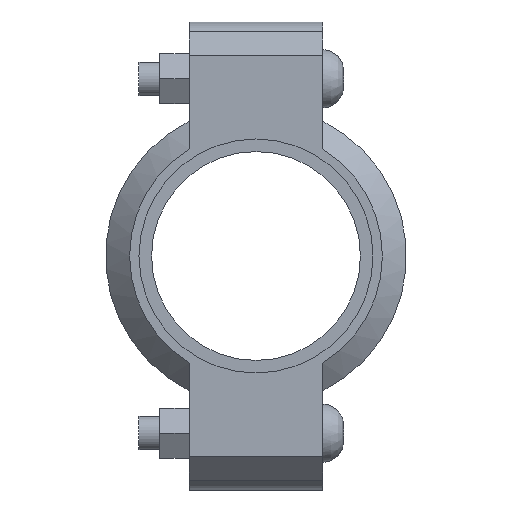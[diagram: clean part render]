
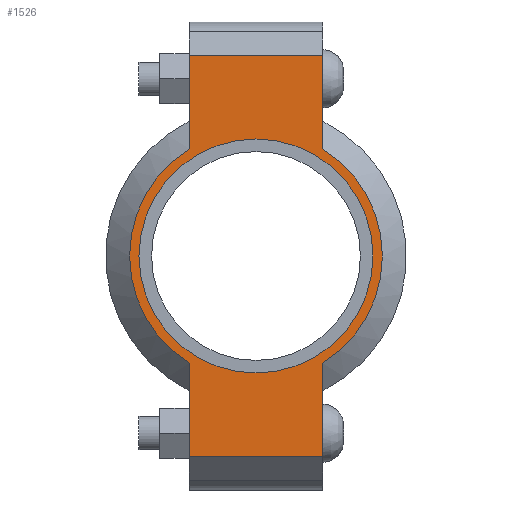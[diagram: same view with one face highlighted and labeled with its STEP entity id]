
A CAD part, left-side view. The second image highlights one B-rep face of the part: STEP entity #1526.
In plain terms, the highlighted planar face has unit normal (-1, 0, 0) as drawn and (0, 0, 1) by its records, which use the part's own axes.
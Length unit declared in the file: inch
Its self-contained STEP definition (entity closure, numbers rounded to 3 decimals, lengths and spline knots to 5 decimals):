
#150=LINE('',#2663,#243);
#158=LINE('',#2699,#251);
#165=LINE('',#2720,#258);
#174=LINE('',#2752,#267);
#175=LINE('',#2756,#268);
#176=LINE('',#2758,#269);
#243=VECTOR('',#2175,0.3937);
#251=VECTOR('',#2191,0.3937);
#258=VECTOR('',#2210,0.3937);
#267=VECTOR('',#2235,0.3937);
#268=VECTOR('',#2240,0.3937);
#269=VECTOR('',#2241,0.3937);
#325=FACE_BOUND('',#503,.T.);
#397=FACE_OUTER_BOUND('',#502,.T.);
#502=EDGE_LOOP('',(#1267,#1268,#1269,#1270,#1271,#1272,#1273,#1274));
#503=EDGE_LOOP('',(#1275));
#575=CIRCLE('',#1745,1.75);
#601=CIRCLE('',#1804,1.89);
#602=CIRCLE('',#1805,1.89);
#667=VERTEX_POINT('',#2479);
#710=VERTEX_POINT('',#2660);
#711=VERTEX_POINT('',#2662);
#722=VERTEX_POINT('',#2694);
#723=VERTEX_POINT('',#2698);
#730=VERTEX_POINT('',#2717);
#731=VERTEX_POINT('',#2719);
#741=VERTEX_POINT('',#2755);
#742=VERTEX_POINT('',#2757);
#823=EDGE_CURVE('',#667,#667,#575,.T.);
#884=EDGE_CURVE('',#711,#710,#150,.T.);
#898=EDGE_CURVE('',#723,#722,#158,.T.);
#908=EDGE_CURVE('',#731,#730,#165,.T.);
#923=EDGE_CURVE('',#723,#710,#174,.T.);
#924=EDGE_CURVE('',#722,#731,#601,.T.);
#925=EDGE_CURVE('',#741,#730,#175,.T.);
#926=EDGE_CURVE('',#741,#742,#176,.T.);
#927=EDGE_CURVE('',#742,#711,#602,.T.);
#1267=ORIENTED_EDGE('',*,*,#923,.F.);
#1268=ORIENTED_EDGE('',*,*,#898,.T.);
#1269=ORIENTED_EDGE('',*,*,#924,.T.);
#1270=ORIENTED_EDGE('',*,*,#908,.T.);
#1271=ORIENTED_EDGE('',*,*,#925,.F.);
#1272=ORIENTED_EDGE('',*,*,#926,.T.);
#1273=ORIENTED_EDGE('',*,*,#927,.T.);
#1274=ORIENTED_EDGE('',*,*,#884,.T.);
#1275=ORIENTED_EDGE('',*,*,#823,.T.);
#1368=PLANE('',#1803);
#1526=ADVANCED_FACE('',(#397,#325),#1368,.T.);
#1745=AXIS2_PLACEMENT_3D('',#2481,#2051,#2052);
#1803=AXIS2_PLACEMENT_3D('',#2753,#2236,#2237);
#1804=AXIS2_PLACEMENT_3D('',#2754,#2238,#2239);
#1805=AXIS2_PLACEMENT_3D('',#2759,#2242,#2243);
#2051=DIRECTION('center_axis',(0.,0.,-1.));
#2052=DIRECTION('ref_axis',(-1.,0.,0.));
#2175=DIRECTION('',(-1.,0.,0.));
#2191=DIRECTION('',(1.,0.,0.));
#2210=DIRECTION('',(1.,0.,0.));
#2235=DIRECTION('',(0.,1.,0.));
#2236=DIRECTION('center_axis',(0.,0.,1.));
#2237=DIRECTION('ref_axis',(1.,0.,0.));
#2238=DIRECTION('center_axis',(0.,0.,1.));
#2239=DIRECTION('ref_axis',(-1.,0.,0.));
#2240=DIRECTION('',(0.,-1.,0.));
#2241=DIRECTION('',(-1.,0.,0.));
#2242=DIRECTION('center_axis',(0.,0.,1.));
#2243=DIRECTION('ref_axis',(-1.,0.,0.));
#2479=CARTESIAN_POINT('',(1.75,0.,0.94));
#2481=CARTESIAN_POINT('Origin',(0.,0.,0.94));
#2660=CARTESIAN_POINT('',(-3.,1.,0.94));
#2662=CARTESIAN_POINT('',(-1.60378,1.,0.94));
#2663=CARTESIAN_POINT('',(-3.5,1.,0.94));
#2694=CARTESIAN_POINT('',(-1.60378,-1.,0.94));
#2698=CARTESIAN_POINT('',(-3.,-1.,0.94));
#2699=CARTESIAN_POINT('',(3.5,-1.,0.94));
#2717=CARTESIAN_POINT('',(3.,-1.,0.94));
#2719=CARTESIAN_POINT('',(1.60378,-1.,0.94));
#2720=CARTESIAN_POINT('',(3.5,-1.,0.94));
#2752=CARTESIAN_POINT('',(-3.,0.5,0.94));
#2753=CARTESIAN_POINT('Origin',(0.,0.,
0.94));
#2754=CARTESIAN_POINT('Origin',(0.,0.,0.94));
#2755=CARTESIAN_POINT('',(3.,1.,0.94));
#2756=CARTESIAN_POINT('',(3.,-0.5,0.94));
#2757=CARTESIAN_POINT('',(1.60378,1.,0.94));
#2758=CARTESIAN_POINT('',(-3.5,1.,0.94));
#2759=CARTESIAN_POINT('Origin',(0.,0.,0.94));
